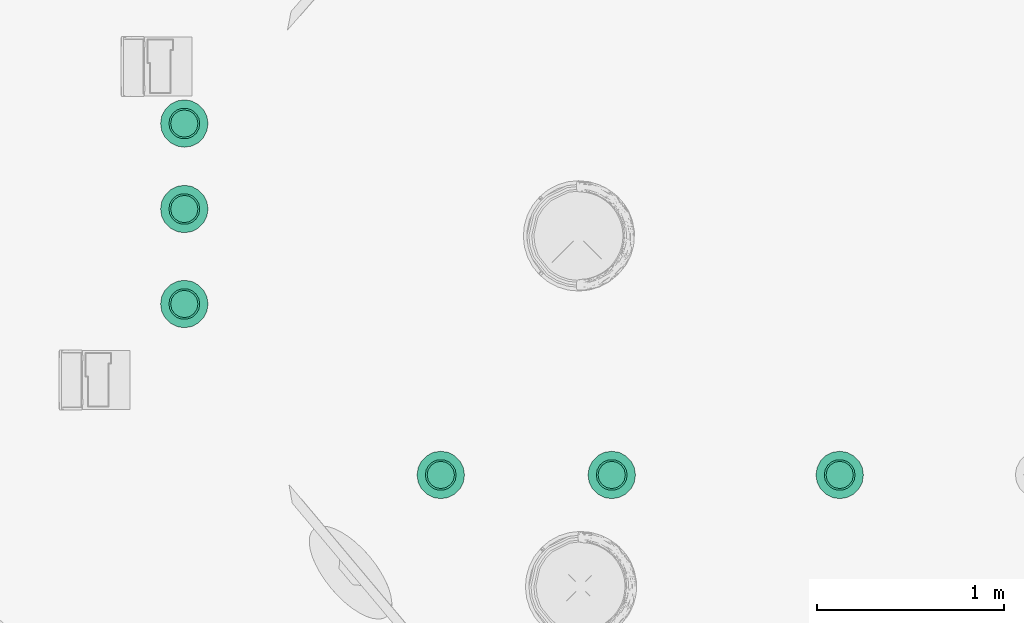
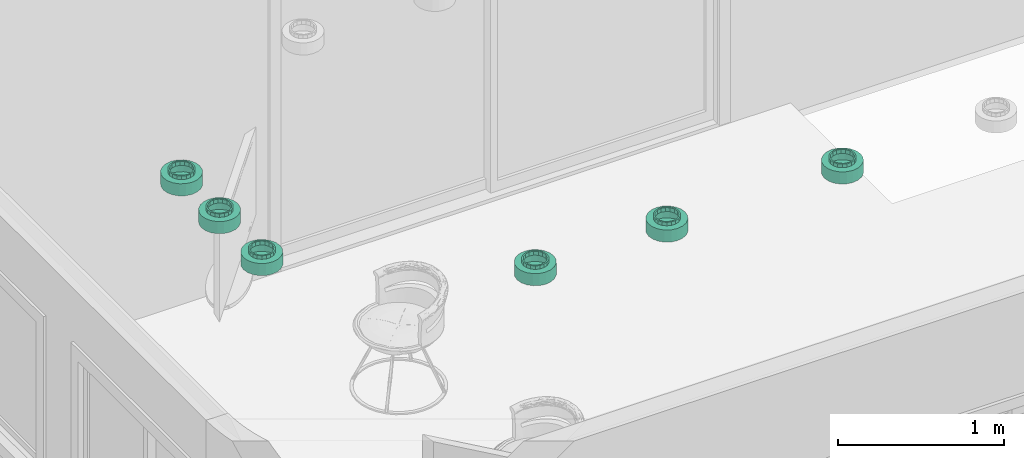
# One storey, part 3 of 8: 6 flow terminals.
"""IFC2X3 building model written with IfcOpenShell, lengths in feet."""

from ifc_helpers import new_model, entity, si_unit, converted_unit, derived_unit, direction, frame, origin, place, context, subcontext, project, spatial, faceted_brep, source, transform, mapped, material, material_list, type_object, type_shapes, element, save


model = new_model("IFC2X3")

# Units and contexts
model_context = context("Model", 3, precision=0.0001, world=origin(), true_north=direction((6.12303176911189e-17, 1.0)))
body_context = subcontext(model_context, "Body", "Model", "MODEL_VIEW")
ifc_project = project(units=[converted_unit("LENGTHUNIT", "FOOT", entity("IfcRatioMeasure", 0.3048), si_unit("LENGTHUNIT", "METRE"), dimensions=[1, 0, 0, 0, 0, 0, 0]), converted_unit("AREAUNIT", "SQUARE FOOT", entity("IfcRatioMeasure", 0.09290304), si_unit("AREAUNIT", "SQUARE_METRE"), dimensions=[2, 0, 0, 0, 0, 0, 0]), converted_unit("VOLUMEUNIT", "CUBIC FOOT", entity("IfcRatioMeasure", 0.028316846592), si_unit("VOLUMEUNIT", "CUBIC_METRE"), dimensions=[3, 0, 0, 0, 0, 0, 0]), converted_unit("PLANEANGLEUNIT", "DEGREE", entity("IfcRatioMeasure", 0.0174532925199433), si_unit("PLANEANGLEUNIT", "RADIAN"), dimensions=[0, 0, 0, 0, 0, 0, 0]), si_unit("MASSUNIT", "GRAM", prefix="KILO"), derived_unit("MASSDENSITYUNIT", [(si_unit("MASSUNIT", "GRAM", prefix="KILO"), 1), (si_unit("LENGTHUNIT", "METRE"), -3)]), si_unit("TIMEUNIT", "SECOND"), si_unit("FREQUENCYUNIT", "HERTZ"), si_unit("THERMODYNAMICTEMPERATUREUNIT", "DEGREE_CELSIUS"), derived_unit("THERMALTRANSMITTANCEUNIT", [(si_unit("MASSUNIT", "GRAM", prefix="KILO"), 1), (si_unit("THERMODYNAMICTEMPERATUREUNIT", "KELVIN"), -1), (si_unit("TIMEUNIT", "SECOND"), -3)]), derived_unit("VOLUMETRICFLOWRATEUNIT", [(si_unit("LENGTHUNIT", "METRE"), 3), (si_unit("TIMEUNIT", "SECOND"), -1)]), si_unit("ELECTRICCURRENTUNIT", "AMPERE"), si_unit("ELECTRICVOLTAGEUNIT", "VOLT"), si_unit("POWERUNIT", "WATT"), si_unit("FORCEUNIT", "NEWTON"), si_unit("ILLUMINANCEUNIT", "LUX"), si_unit("LUMINOUSFLUXUNIT", "LUMEN"), si_unit("LUMINOUSINTENSITYUNIT", "CANDELA"), derived_unit("USERDEFINED", [(si_unit("MASSUNIT", "GRAM", prefix="KILO"), -1), (si_unit("LENGTHUNIT", "METRE"), -2), (si_unit("TIMEUNIT", "SECOND"), 3), (si_unit("LUMINOUSFLUXUNIT", "LUMEN"), 1)]), derived_unit("LINEARVELOCITYUNIT", [(si_unit("LENGTHUNIT", "METRE"), 1), (si_unit("TIMEUNIT", "SECOND"), -1)]), si_unit("PRESSUREUNIT", "PASCAL"), derived_unit("USERDEFINED", [(si_unit("LENGTHUNIT", "METRE"), -2), (si_unit("MASSUNIT", "GRAM", prefix="KILO"), 1), (si_unit("TIMEUNIT", "SECOND"), -2)])], contexts=[model_context])

# Site, building, storey
site_placement = place(None, origin())
site = spatial("IfcSite", under=ifc_project, at=site_placement, Name="表面", CompositionType="ELEMENT")
building_placement = place(site_placement, origin())
building = spatial("IfcBuilding", under=site, at=building_placement, CompositionType="ELEMENT")
storey_placement = place(building_placement, frame((0.0, 0.0, 20.0)))
storey = spatial("IfcBuildingStorey", under=building, at=storey_placement, Name="Sun Deck", CompositionType="ELEMENT", Elevation=19.9999999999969)

# Flow terminals
ifc_material_1 = material(Name="Metal - Paint Finish - Dark Gray, Matte")
ifc_material_2 = material(Name="Glass - White, High Luminance")
ifc_material_list_1 = material_list([ifc_material_1, ifc_material_2])
ifc_material_list_2 = material_list([ifc_material_1, ifc_material_2])
light_fixture_type = type_object("IfcLightFixtureType", Name="60W - 120V", PredefinedType="NOTDEFINED", material=ifc_material_list_2)
shared_shape = source(origin(), body_context, "Body", "Brep", [
    faceted_brep([(0.557291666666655, 0.187326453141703, 0.374999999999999), (0.598651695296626, 0.245098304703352, 0.374999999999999), (0.558098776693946, 0.218001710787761, 0.374999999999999), (0.629345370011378, 0.247786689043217, 0.374999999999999), (0.517545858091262, 0.190905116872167, 0.374999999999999), (0.468904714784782, 0.155156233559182, 0.374999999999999), (0.625748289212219, 0.285651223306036, 0.374999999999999), (0.65284488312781, 0.326204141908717, 0.374999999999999), (0.676375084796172, 0.329244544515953, 0.374999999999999), (0.6623599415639, 0.374039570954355, 0.374999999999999), (0.671874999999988, 0.42187499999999, 0.374999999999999), (0.692708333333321, 0.421874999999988, 0.374999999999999), (0.676375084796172, 0.514505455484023, 0.374999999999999), (0.662359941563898, 0.469710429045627, 0.374999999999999), (0.652844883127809, 0.517545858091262, 0.374999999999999), (0.629345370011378, 0.595963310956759, 0.374999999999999), (0.625748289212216, 0.558098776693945, 0.374999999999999), (0.598651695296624, 0.598651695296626, 0.374999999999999), (0.557291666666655, 0.656423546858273, 0.374999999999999), (0.55809877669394, 0.625748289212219, 0.374999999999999), (0.517545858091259, 0.65284488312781, 0.374999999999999), (0.468904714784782, 0.688593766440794, 0.374999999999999), (0.469710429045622, 0.662359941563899, 0.374999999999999), (0.421874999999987, 0.671874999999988, 0.374999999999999), (0.374845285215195, 0.688593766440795, 0.374999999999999), (0.374039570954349, 0.662359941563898, 0.374999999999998), (0.326204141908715, 0.652844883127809, 0.374999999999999), (0.286458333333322, 0.656423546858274, 0.374999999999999), (0.285651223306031, 0.625748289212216, 0.374999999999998), (0.245098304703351, 0.598651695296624, 0.374999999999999), (0.214404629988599, 0.59596331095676, 0.374999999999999), (0.218001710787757, 0.558098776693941, 0.374999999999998), (0.190905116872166, 0.51754585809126, 0.374999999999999), (0.167374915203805, 0.514505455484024, 0.374999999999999), (0.181390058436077, 0.469710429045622, 0.374999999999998), (0.171874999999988, 0.421874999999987, 0.374999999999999), (0.151041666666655, 0.421874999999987, 0.374999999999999), (0.167374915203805, 0.329244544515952, 0.374999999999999), (0.181390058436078, 0.374039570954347, 0.374999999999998), (0.190905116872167, 0.326204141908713, 0.374999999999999), (0.214404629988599, 0.247786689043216, 0.374999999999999), (0.218001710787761, 0.28565122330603, 0.374999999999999), (0.245098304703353, 0.245098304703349, 0.374999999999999), (0.286458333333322, 0.187326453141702, 0.374999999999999), (0.285651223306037, 0.218001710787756, 0.374999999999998), (0.326204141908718, 0.190905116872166, 0.374999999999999), (0.374845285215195, 0.155156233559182, 0.374999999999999), (0.42187499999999, 0.171874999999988, 0.374999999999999), (0.374039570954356, 0.181390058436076, 0.374999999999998), (0.469710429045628, 0.181390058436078, 0.374999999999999), (0.557291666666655, 0.656423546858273, 0.291666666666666), (0.598651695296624, 0.598651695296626, 0.291666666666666), (0.55809877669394, 0.625748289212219, 0.291666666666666), (0.629345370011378, 0.595963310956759, 0.291666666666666), (0.517545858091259, 0.65284488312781, 0.291666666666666), (0.468904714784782, 0.688593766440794, 0.291666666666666), (0.625748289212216, 0.558098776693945, 0.291666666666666), (0.652844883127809, 0.517545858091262, 0.291666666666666), (0.676375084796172, 0.514505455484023, 0.291666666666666), (0.662359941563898, 0.469710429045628, 0.291666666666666), (0.671874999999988, 0.42187499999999, 0.291666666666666), (0.692708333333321, 0.421874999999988, 0.291666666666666), (0.676375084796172, 0.329244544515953, 0.291666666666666), (0.659760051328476, 0.36096904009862, 0.291666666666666), (0.65284488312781, 0.326204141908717, 0.291666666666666), (0.629345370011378, 0.247786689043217, 0.291666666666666), (0.625748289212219, 0.285651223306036, 0.291666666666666), (0.598651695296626, 0.245098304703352, 0.291666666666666), (0.557291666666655, 0.187326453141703, 0.291666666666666), (0.558098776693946, 0.218001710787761, 0.291666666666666), (0.517545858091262, 0.190905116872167, 0.291666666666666), (0.468904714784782, 0.155156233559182, 0.291666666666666), (0.469710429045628, 0.181390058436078, 0.291666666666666), (0.42187499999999, 0.171874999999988, 0.291666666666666), (0.374845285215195, 0.155156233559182, 0.291666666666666), (0.374039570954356, 0.181390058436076, 0.291666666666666), (0.326204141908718, 0.190905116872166, 0.291666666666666), (0.286458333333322, 0.187326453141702, 0.291666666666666), (0.285651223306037, 0.218001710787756, 0.291666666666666), (0.245098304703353, 0.245098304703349, 0.291666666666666), (0.214404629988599, 0.247786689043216, 0.291666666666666), (0.218001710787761, 0.28565122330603, 0.291666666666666), (0.190905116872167, 0.326204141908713, 0.291666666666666), (0.167374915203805, 0.329244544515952, 0.291666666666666), (0.181390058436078, 0.374039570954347, 0.291666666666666), (0.171874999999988, 0.421874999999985, 0.291666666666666), (0.151041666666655, 0.421874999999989, 0.291666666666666), (0.167374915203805, 0.514505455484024, 0.291666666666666), (0.183989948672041, 0.482780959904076, 0.291666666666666), (0.190905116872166, 0.51754585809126, 0.291666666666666), (0.214404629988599, 0.59596331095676, 0.291666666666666), (0.218001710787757, 0.558098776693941, 0.291666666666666), (0.245098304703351, 0.598651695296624, 0.291666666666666), (0.286458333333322, 0.656423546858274, 0.291666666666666), (0.285651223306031, 0.625748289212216, 0.291666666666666), (0.326204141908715, 0.652844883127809, 0.291666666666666), (0.374845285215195, 0.688593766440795, 0.291666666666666), (0.421874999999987, 0.671874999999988, 0.291666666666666), (0.374039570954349, 0.662359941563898, 0.291666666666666), (0.469710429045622, 0.662359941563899, 0.291666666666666)], [[[0, 1, 2]], [[1, 0, 3]], [[0, 2, 4]], [[4, 5, 0]], [[3, 6, 1]], [[3, 7, 6]], [[7, 3, 8]], [[8, 9, 7]], [[8, 10, 9]], [[10, 8, 11]], [[10, 11, 12]], [[12, 13, 10]], [[12, 14, 13]], [[15, 14, 12]], [[15, 16, 14]], [[15, 17, 16]], [[18, 17, 15]], [[18, 19, 17]], [[18, 20, 19]], [[21, 20, 18]], [[21, 22, 20]], [[21, 23, 22]], [[24, 23, 21]], [[24, 25, 23]], [[24, 26, 25]], [[27, 26, 24]], [[27, 28, 26]], [[27, 29, 28]], [[29, 27, 30]], [[30, 31, 29]], [[30, 32, 31]], [[32, 30, 33]], [[33, 34, 32]], [[33, 35, 34]], [[36, 35, 33]], [[37, 35, 36]], [[37, 38, 35]], [[37, 39, 38]], [[39, 37, 40]], [[40, 41, 39]], [[40, 42, 41]], [[42, 40, 43]], [[43, 44, 42]], [[43, 45, 44]], [[45, 43, 46]], [[47, 46, 5]], [[46, 47, 48]], [[46, 48, 45]], [[5, 4, 49]], [[5, 49, 47]], [[50, 51, 52]], [[51, 50, 53]], [[50, 52, 54]], [[54, 55, 50]], [[53, 56, 51]], [[53, 57, 56]], [[57, 53, 58]], [[58, 59, 57]], [[58, 60, 59]], [[60, 58, 61]], [[60, 61, 62]], [[62, 63, 60]], [[62, 64, 63]], [[65, 64, 62]], [[65, 66, 64]], [[65, 67, 66]], [[68, 67, 65]], [[68, 69, 67]], [[68, 70, 69]], [[71, 70, 68]], [[71, 72, 70]], [[71, 73, 72]], [[74, 73, 71]], [[74, 75, 73]], [[74, 76, 75]], [[77, 76, 74]], [[77, 78, 76]], [[77, 79, 78]], [[79, 77, 80]], [[80, 81, 79]], [[80, 82, 81]], [[82, 80, 83]], [[83, 84, 82]], [[83, 85, 84]], [[86, 85, 83]], [[87, 85, 86]], [[87, 88, 85]], [[87, 89, 88]], [[89, 87, 90]], [[90, 91, 89]], [[90, 92, 91]], [[92, 90, 93]], [[93, 94, 92]], [[93, 95, 94]], [[95, 93, 96]], [[97, 96, 55]], [[96, 97, 98]], [[96, 98, 95]], [[55, 54, 99]], [[55, 99, 97]], [[37, 36, 86, 83]], [[43, 40, 80, 77]], [[83, 80, 40, 37]], [[77, 74, 46, 43]], [[74, 71, 5, 46]], [[0, 5, 71, 68]], [[8, 3, 65, 62]], [[68, 65, 3, 0]], [[62, 61, 11, 8]], [[12, 11, 61, 58]], [[18, 15, 53, 50]], [[58, 53, 15, 12]], [[50, 55, 21, 18]], [[55, 96, 24, 21]], [[27, 24, 96, 93]], [[87, 33, 30, 90]], [[90, 30, 27, 93]], [[33, 87, 86, 36]], [[34, 35, 85, 88, 89, 32]], [[89, 91, 92, 29, 31, 32]], [[59, 60, 10, 13, 14, 57]], [[92, 94, 95, 26, 28, 29]], [[23, 25, 26, 95, 98, 97]], [[97, 99, 54, 20, 22, 23]], [[16, 17, 51, 56, 57, 14]], [[54, 52, 51, 17, 19, 20]], [[9, 10, 60, 63, 64, 7]], [[64, 66, 67, 1, 6, 7]], [[84, 85, 35, 38, 39, 82]], [[67, 69, 70, 4, 2, 1]], [[47, 49, 4, 70, 72, 73]], [[73, 75, 76, 45, 48, 47]], [[41, 42, 79, 81, 82, 39]], [[76, 78, 79, 42, 44, 45]]]),
    faceted_brep([(0.671874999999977, 0.421874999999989, 0.291666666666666), (0.838541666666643, 0.421874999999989, 0.291666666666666), (0.81814854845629, 0.550632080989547, 0.291666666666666), (0.818148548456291, 0.293117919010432, 0.291666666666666), (0.659760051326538, 0.360969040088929, 0.291666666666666), (0.662359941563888, 0.469710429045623, 0.291666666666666), (0.6528448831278, 0.326204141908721, 0.291666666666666), (0.758965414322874, 0.176964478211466, 0.291666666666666), (0.625748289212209, 0.28565122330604, 0.291666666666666), (0.598651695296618, 0.24509830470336, 0.291666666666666), (0.666785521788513, 0.084784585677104, 0.291666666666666), (0.558098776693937, 0.218001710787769, 0.291666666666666), (0.517545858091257, 0.190905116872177, 0.291666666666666), (0.550632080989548, 0.025601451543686, 0.291666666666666), (0.469710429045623, 0.181390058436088, 0.291666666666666), (0.421874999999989, 0.171874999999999, 0.291666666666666), (0.42187499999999, 0.00520833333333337, 0.291666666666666), (0.293117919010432, 0.0256014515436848, 0.291666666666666), (0.374039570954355, 0.181390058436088, 0.291666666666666), (0.326204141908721, 0.190905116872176, 0.291666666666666), (0.176964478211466, 0.0847845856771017, 0.291666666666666), (0.285651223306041, 0.218001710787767, 0.291666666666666), (0.24509830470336, 0.245098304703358, 0.291666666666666), (0.0847845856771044, 0.176964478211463, 0.291666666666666), (0.218001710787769, 0.285651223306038, 0.291666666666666), (0.190905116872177, 0.326204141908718, 0.291666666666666), (0.0256014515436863, 0.293117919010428, 0.291666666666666), (0.181390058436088, 0.374039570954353, 0.291666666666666), (0.171874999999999, 0.421874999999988, 0.291666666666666), (0.00520833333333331, 0.421874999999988, 0.291666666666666), (0.0256014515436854, 0.550632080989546, 0.291666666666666), (0.183989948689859, 0.482780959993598, 0.291666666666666), (0.190905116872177, 0.517545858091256, 0.291666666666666), (0.0847845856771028, 0.666785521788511, 0.291666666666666), (0.218001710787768, 0.558098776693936, 0.291666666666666), (0.245098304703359, 0.598651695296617, 0.291666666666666), (0.176964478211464, 0.758965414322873, 0.291666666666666), (0.285651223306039, 0.625748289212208, 0.291666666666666), (0.32620414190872, 0.652844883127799, 0.291666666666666), (0.29311791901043, 0.81814854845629, 0.291666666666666), (0.374039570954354, 0.662359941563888, 0.291666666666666), (0.421874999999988, 0.671874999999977, 0.291666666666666), (0.421874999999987, 0.838541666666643, 0.291666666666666), (0.550632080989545, 0.818148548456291, 0.291666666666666), (0.469710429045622, 0.662359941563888, 0.291666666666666), (0.517545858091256, 0.6528448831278, 0.291666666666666), (0.666785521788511, 0.758965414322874, 0.291666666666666), (0.558098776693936, 0.625748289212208, 0.291666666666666), (0.598651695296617, 0.598651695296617, 0.291666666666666), (0.758965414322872, 0.666785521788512, 0.291666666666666), (0.625748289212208, 0.558098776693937, 0.291666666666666), (0.652844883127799, 0.517545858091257, 0.291666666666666), (0.0256014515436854, 0.550632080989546, 0.0), (0.00520833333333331, 0.421874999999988, 0.0), (0.0847845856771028, 0.666785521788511, 0.0), (0.176964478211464, 0.758965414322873, 0.0), (0.29311791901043, 0.818148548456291, 0.0), (0.421874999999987, 0.838541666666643, 0.0), (0.550632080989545, 0.818148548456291, 0.0), (0.666785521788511, 0.758965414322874, 0.0), (0.758965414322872, 0.666785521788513, 0.0), (0.81814854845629, 0.550632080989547, 0.0), (0.838541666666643, 0.42187499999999, 0.0), (0.818148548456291, 0.293117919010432, 0.0), (0.666785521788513, 0.0847845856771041, 0.0), (0.550632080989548, 0.025601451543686, 0.0), (0.42187499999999, 0.00520833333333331, 0.0), (0.758965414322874, 0.176964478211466, 0.0), (0.293117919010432, 0.0256014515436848, 0.0), (0.176964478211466, 0.0847845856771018, 0.0), (0.0847845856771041, 0.176964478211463, 0.0), (0.025601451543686, 0.293117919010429, 0.0), (0.421874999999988, 0.421874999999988, 0.0), (0.808241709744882, 0.547413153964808, 0.0104166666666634), (0.421874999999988, 0.421874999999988, 0.0104166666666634), (0.828124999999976, 0.421874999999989, 0.0104166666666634), (0.7505381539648, 0.660662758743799, 0.0104166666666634), (0.660662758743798, 0.750538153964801, 0.0104166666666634), (0.547413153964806, 0.808241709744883, 0.0104166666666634), (0.421874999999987, 0.828124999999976, 0.0104166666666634), (0.296336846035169, 0.808241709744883, 0.0104166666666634), (0.183087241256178, 0.750538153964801, 0.0104166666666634), (0.0932118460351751, 0.660662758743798, 0.0104166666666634), (0.0355082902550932, 0.547413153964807, 0.0104166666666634), (0.0156249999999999, 0.421874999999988, 0.0104166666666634), (0.0355082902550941, 0.296336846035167, 0.0104166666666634), (0.0932118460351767, 0.183087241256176, 0.0104166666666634), (0.18308724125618, 0.093211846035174, 0.0104166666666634), (0.296336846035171, 0.0355082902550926, 0.0104166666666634), (0.42187499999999, 0.0156249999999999, 0.0104166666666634), (0.547413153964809, 0.0355082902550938, 0.0104166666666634), (0.6606627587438, 0.0932118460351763, 0.0104166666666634), (0.750538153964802, 0.183087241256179, 0.0104166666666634), (0.808241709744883, 0.296336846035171, 0.0104166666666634), (0.0355082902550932, 0.547413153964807, 0.281249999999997), (0.0156249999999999, 0.421874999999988, 0.281249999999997), (0.0932118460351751, 0.660662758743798, 0.281249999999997), (0.183087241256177, 0.750538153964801, 0.281249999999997), (0.296336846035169, 0.808241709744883, 0.281249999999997), (0.421874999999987, 0.828124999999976, 0.281249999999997), (0.660662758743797, 0.750538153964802, 0.281249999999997), (0.547413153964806, 0.808241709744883, 0.281249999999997), (0.808241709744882, 0.547413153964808, 0.281249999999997), (0.7505381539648, 0.660662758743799, 0.281249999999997), (0.828124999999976, 0.42187499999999, 0.281249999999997), (0.808241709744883, 0.296336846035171, 0.281249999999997), (0.547413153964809, 0.0355082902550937, 0.281249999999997), (0.6606627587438, 0.0932118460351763, 0.281249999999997), (0.42187499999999, 0.0156249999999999, 0.281249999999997), (0.750538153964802, 0.183087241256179, 0.281249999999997), (0.183087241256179, 0.0932118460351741, 0.281249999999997), (0.296336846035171, 0.0355082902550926, 0.281249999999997), (0.0355082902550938, 0.296336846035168, 0.281249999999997), (0.0932118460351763, 0.183087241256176, 0.281249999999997), (0.66145833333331, 0.421874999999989, 0.281249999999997), (0.650878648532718, 0.475062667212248, 0.281249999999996), (0.643221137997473, 0.513559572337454, 0.281249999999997), (0.650878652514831, 0.368687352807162, 0.281249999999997), (0.643221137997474, 0.330190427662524, 0.281249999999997), (0.617253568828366, 0.291327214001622, 0.281249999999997), (0.591285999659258, 0.25246400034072, 0.281249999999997), (0.552422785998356, 0.226496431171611, 0.281249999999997), (0.513559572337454, 0.200528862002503, 0.281249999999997), (0.467717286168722, 0.191410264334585, 0.281249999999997), (0.421874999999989, 0.182291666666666, 0.281249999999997), (0.376032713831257, 0.191410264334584, 0.281249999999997), (0.330190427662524, 0.200528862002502, 0.281249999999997), (0.291327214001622, 0.22649643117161, 0.281249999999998), (0.25246400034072, 0.252464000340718, 0.281249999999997), (0.226496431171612, 0.29132721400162, 0.281249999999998), (0.200528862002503, 0.330190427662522, 0.281249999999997), (0.191410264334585, 0.376032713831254, 0.281249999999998), (0.182291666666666, 0.421874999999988, 0.281249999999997), (0.192871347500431, 0.47506264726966, 0.281249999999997), (0.200528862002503, 0.513559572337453, 0.281249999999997), (0.226496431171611, 0.552422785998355, 0.281249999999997), (0.252464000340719, 0.591285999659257, 0.281249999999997), (0.291327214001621, 0.617253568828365, 0.281249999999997), (0.330190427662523, 0.643221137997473, 0.281249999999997), (0.376032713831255, 0.652339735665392, 0.281249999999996), (0.421874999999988, 0.66145833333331, 0.281249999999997), (0.46771728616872, 0.652339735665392, 0.281249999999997), (0.513559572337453, 0.643221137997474, 0.281249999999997), (0.591285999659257, 0.591285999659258, 0.281249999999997), (0.552422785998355, 0.617253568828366, 0.281249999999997), (0.617253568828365, 0.552422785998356, 0.281249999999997), (0.191410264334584, 0.467717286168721, 0.375), (0.182291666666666, 0.421874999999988, 0.375), (0.200528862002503, 0.513559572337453, 0.375), (0.252464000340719, 0.591285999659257, 0.375), (0.226496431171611, 0.552422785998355, 0.375), (0.330190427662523, 0.643221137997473, 0.375), (0.291327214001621, 0.617253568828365, 0.375), (0.421874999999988, 0.66145833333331, 0.375), (0.376032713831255, 0.652339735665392, 0.375), (0.552422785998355, 0.617253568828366, 0.375), (0.513559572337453, 0.643221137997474, 0.375), (0.591285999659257, 0.591285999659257, 0.375), (0.643221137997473, 0.513559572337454, 0.375), (0.617253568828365, 0.552422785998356, 0.375), (0.46771728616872, 0.652339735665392, 0.375), (0.652339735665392, 0.467717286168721, 0.375), (0.66145833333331, 0.421874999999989, 0.375), (0.652339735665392, 0.376032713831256, 0.375), (0.643221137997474, 0.330190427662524, 0.375), (0.591285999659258, 0.25246400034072, 0.375), (0.617253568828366, 0.291327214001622, 0.375), (0.513559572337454, 0.200528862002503, 0.375), (0.552422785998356, 0.226496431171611, 0.375), (0.421874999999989, 0.182291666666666, 0.375), (0.467717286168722, 0.191410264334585, 0.375), (0.200528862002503, 0.330190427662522, 0.375), (0.192871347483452, 0.368687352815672, 0.375), (0.25246400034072, 0.252464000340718, 0.375), (0.291327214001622, 0.22649643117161, 0.375), (0.330190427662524, 0.200528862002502, 0.375), (0.226496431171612, 0.29132721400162, 0.375), (0.376032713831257, 0.191410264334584, 0.375), (0.671874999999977, 0.421874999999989, 0.375), (0.659760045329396, 0.482780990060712, 0.375), (0.652844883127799, 0.517545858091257, 0.375), (0.662359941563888, 0.374039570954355, 0.375), (0.6528448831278, 0.326204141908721, 0.375), (0.625748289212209, 0.28565122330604, 0.375), (0.598651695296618, 0.24509830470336, 0.375), (0.558098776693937, 0.218001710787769, 0.375), (0.517545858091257, 0.190905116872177, 0.375), (0.469710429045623, 0.181390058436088, 0.375), (0.421874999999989, 0.171874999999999, 0.375), (0.374039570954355, 0.181390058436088, 0.375), (0.326204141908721, 0.190905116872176, 0.375), (0.285651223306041, 0.218001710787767, 0.375), (0.24509830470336, 0.245098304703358, 0.375), (0.218001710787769, 0.285651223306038, 0.375), (0.190905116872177, 0.326204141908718, 0.375), (0.183989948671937, 0.360969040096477, 0.375), (0.171874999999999, 0.421874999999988, 0.375), (0.181390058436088, 0.469710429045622, 0.375), (0.190905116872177, 0.517545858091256, 0.375), (0.218001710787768, 0.558098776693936, 0.375), (0.245098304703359, 0.598651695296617, 0.375), (0.285651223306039, 0.625748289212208, 0.375), (0.32620414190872, 0.652844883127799, 0.375), (0.374039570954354, 0.662359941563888, 0.375), (0.421874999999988, 0.671874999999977, 0.375), (0.469710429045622, 0.662359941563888, 0.375), (0.517545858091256, 0.6528448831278, 0.375), (0.558098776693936, 0.625748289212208, 0.375), (0.598651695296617, 0.598651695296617, 0.375), (0.625748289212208, 0.558098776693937, 0.375)], [[[0, 1, 2]], [[0, 3, 1]], [[3, 0, 4]], [[2, 5, 0]], [[3, 4, 6]], [[7, 3, 6]], [[7, 6, 8]], [[7, 8, 9]], [[10, 7, 9]], [[10, 9, 11]], [[10, 11, 12]], [[10, 12, 13]], [[13, 12, 14]], [[13, 14, 15]], [[16, 13, 15]], [[16, 15, 17]], [[17, 15, 18]], [[17, 18, 19]], [[17, 19, 20]], [[20, 19, 21]], [[20, 21, 22]], [[23, 20, 22]], [[23, 22, 24]], [[23, 24, 25]], [[25, 26, 23]], [[26, 25, 27]], [[26, 27, 28]], [[29, 26, 28]], [[30, 29, 28]], [[30, 28, 31]], [[30, 31, 32]], [[30, 32, 33]], [[33, 32, 34]], [[33, 34, 35]], [[36, 33, 35]], [[36, 35, 37]], [[36, 37, 38]], [[39, 36, 38]], [[39, 38, 40]], [[39, 40, 41]], [[42, 39, 41]], [[42, 41, 43]], [[43, 41, 44]], [[43, 44, 45]], [[46, 43, 45]], [[46, 45, 47]], [[46, 47, 48]], [[46, 48, 49]], [[49, 48, 50]], [[49, 50, 51]], [[49, 51, 2]], [[2, 51, 5]], [[52, 53, 29, 30]], [[30, 33, 54, 52]], [[36, 55, 54, 33]], [[55, 36, 39, 56]], [[56, 39, 42, 57]], [[58, 43, 46, 59]], [[60, 49, 2, 61]], [[46, 49, 60, 59]], [[61, 2, 1, 62]], [[43, 58, 57, 42]], [[1, 3, 63, 62]], [[64, 10, 13, 65]], [[16, 66, 65, 13]], [[63, 3, 7, 67]], [[10, 64, 67, 7]], [[68, 17, 20, 69]], [[70, 23, 26, 71]], [[20, 23, 70, 69]], [[71, 26, 29, 53]], [[17, 68, 66, 16]], [[62, 72, 61]], [[62, 63, 72]], [[72, 63, 67]], [[72, 67, 64]], [[72, 64, 65]], [[65, 66, 72]], [[68, 72, 66]], [[72, 68, 69]], [[72, 69, 70]], [[71, 72, 70]], [[72, 71, 53]], [[72, 53, 52]], [[72, 52, 54]], [[54, 55, 72]], [[72, 55, 56]], [[56, 57, 72]], [[72, 57, 58]], [[59, 72, 58]], [[72, 59, 60]], [[61, 72, 60]], [[73, 74, 75]], [[76, 74, 73]], [[76, 77, 74]], [[78, 74, 77]], [[78, 79, 74]], [[74, 79, 80]], [[80, 81, 74]], [[74, 81, 82]], [[82, 83, 74]], [[83, 84, 74]], [[84, 85, 74]], [[86, 74, 85]], [[86, 87, 74]], [[87, 88, 74]], [[89, 74, 88]], [[74, 89, 90]], [[90, 91, 74]], [[91, 92, 74]], [[92, 93, 74]], [[74, 93, 75]], [[94, 95, 84, 83]], [[82, 96, 94, 83]], [[96, 82, 81, 97]], [[81, 80, 98, 97]], [[98, 80, 79, 99]], [[100, 101, 78, 77]], [[102, 103, 76, 73]], [[77, 76, 103, 100]], [[104, 102, 73, 75]], [[79, 78, 101, 99]], [[105, 104, 75, 93]], [[106, 107, 91, 90]], [[108, 106, 90, 89]], [[93, 92, 109, 105]], [[109, 92, 91, 107]], [[110, 111, 88, 87]], [[112, 113, 86, 85]], [[87, 86, 113, 110]], [[95, 112, 85, 84]], [[89, 88, 111, 108]], [[102, 104, 114]], [[102, 114, 115]], [[102, 115, 116]], [[102, 116, 103]], [[104, 105, 114]], [[105, 117, 114]], [[105, 118, 117]], [[118, 105, 109]], [[109, 119, 118]], [[109, 120, 119]], [[120, 109, 107]], [[107, 121, 120]], [[107, 122, 121]], [[106, 122, 107]], [[106, 123, 122]], [[106, 124, 123]], [[124, 106, 108]], [[111, 124, 108]], [[111, 125, 124]], [[111, 126, 125]], [[110, 126, 111]], [[110, 127, 126]], [[110, 128, 127]], [[128, 110, 113]], [[113, 129, 128]], [[113, 130, 129]], [[113, 112, 130]], [[112, 131, 130]], [[112, 132, 131]], [[132, 112, 95]], [[132, 95, 94]], [[94, 133, 132]], [[94, 134, 133]], [[96, 134, 94]], [[96, 135, 134]], [[96, 136, 135]], [[136, 96, 97]], [[97, 137, 136]], [[97, 138, 137]], [[138, 97, 98]], [[98, 139, 138]], [[98, 140, 139]], [[140, 98, 99]], [[101, 140, 99]], [[101, 141, 140]], [[101, 142, 141]], [[142, 101, 100]], [[103, 143, 100]], [[100, 143, 144]], [[100, 144, 142]], [[103, 116, 145]], [[103, 145, 143]], [[146, 147, 132, 133, 134, 148]], [[136, 149, 150, 148, 134, 135]], [[136, 137, 138, 151, 152, 149]], [[151, 138, 139, 140, 153, 154]], [[155, 156, 142, 144, 143, 157]], [[116, 158, 159, 157, 143, 145]], [[153, 140, 141, 142, 156, 160]], [[161, 158, 116, 115, 114, 162]], [[163, 162, 114, 117, 118, 164]], [[120, 165, 166, 164, 118, 119]], [[120, 121, 122, 167, 168, 165]], [[123, 124, 169, 170, 167, 122]], [[171, 130, 131, 132, 147, 172]], [[128, 173, 174, 175, 126, 127]], [[128, 129, 130, 171, 176, 173]], [[175, 177, 169, 124, 125, 126]], [[162, 178, 179]], [[162, 179, 180]], [[180, 161, 162]], [[162, 181, 178]], [[162, 182, 181]], [[182, 162, 163]], [[182, 163, 164]], [[164, 183, 182]], [[164, 184, 183]], [[184, 164, 166]], [[184, 166, 165]], [[165, 185, 184]], [[165, 186, 185]], [[186, 165, 168]], [[186, 168, 167]], [[167, 187, 186]], [[167, 188, 187]], [[188, 167, 170]], [[188, 170, 169]], [[188, 169, 177]], [[188, 177, 175]], [[175, 189, 188]], [[175, 190, 189]], [[190, 175, 174]], [[190, 174, 173]], [[173, 191, 190]], [[173, 192, 191]], [[192, 173, 176]], [[192, 176, 171]], [[171, 193, 192]], [[171, 194, 193]], [[194, 171, 172]], [[194, 172, 147]], [[147, 195, 194]], [[147, 196, 195]], [[147, 197, 196]], [[147, 198, 197]], [[198, 147, 146]], [[198, 146, 148]], [[148, 199, 198]], [[148, 200, 199]], [[200, 148, 150]], [[200, 150, 149]], [[149, 201, 200]], [[149, 202, 201]], [[202, 149, 152]], [[202, 152, 151]], [[151, 203, 202]], [[151, 204, 203]], [[204, 151, 154]], [[204, 154, 153]], [[204, 153, 160]], [[204, 160, 156]], [[156, 205, 204]], [[156, 206, 205]], [[206, 156, 155]], [[206, 155, 157]], [[157, 207, 206]], [[157, 208, 207]], [[208, 157, 159]], [[208, 159, 158]], [[158, 180, 209]], [[180, 158, 161]], [[158, 209, 208]], [[198, 32, 31, 28, 196, 197]], [[199, 200, 35, 34, 32, 198]], [[200, 201, 202, 38, 37, 35]], [[40, 38, 202, 203, 204, 41]], [[47, 45, 206, 207, 208, 48]], [[178, 0, 5, 51, 180, 179]], [[208, 209, 180, 51, 50, 48]], [[45, 44, 41, 204, 205, 206]], [[182, 6, 4, 0, 178, 181]], [[183, 184, 9, 8, 6, 182]], [[184, 185, 186, 12, 11, 9]], [[187, 188, 15, 14, 12, 186]], [[195, 196, 28, 27, 25, 194]], [[191, 192, 22, 21, 19, 190]], [[192, 193, 194, 25, 24, 22]], [[19, 18, 15, 188, 189, 190]]]),
])
type_shapes(light_fixture_type, [shared_shape])
flow_terminal_1_placement = place(storey_placement, frame((-10.7067880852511, 3.01051869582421, 9.625)))
element("IfcFlowTerminal", 1, at=flow_terminal_1_placement, inside=storey, type_object=light_fixture_type, material=ifc_material_list_1, Name="Ceiling Light - Flat Round:60W - 120V", ObjectType="60W - 120V", context=body_context, shape_type="MappedRepresentation", body=[
    mapped(shared_shape, transform((0.0, 0.0, 0.0), scale=1.0)),
])
ifc_material_list_3 = material_list([ifc_material_1, ifc_material_2])
flow_terminal_2_placement = place(storey_placement, frame((-10.7067880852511, 1.51051869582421, 9.625)))
element("IfcFlowTerminal", 2, at=flow_terminal_2_placement, inside=storey, type_object=light_fixture_type, material=ifc_material_list_3, Name="Ceiling Light - Flat Round:60W - 120V", ObjectType="60W - 120V", context=body_context, shape_type="MappedRepresentation", body=[
    mapped(shared_shape, transform((0.0, 0.0, 0.0), scale=1.0)),
])
ifc_material_list_4 = material_list([ifc_material_1, ifc_material_2])
flow_terminal_3_placement = place(storey_placement, frame((-10.7067880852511, -0.156147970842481, 9.625)))
element("IfcFlowTerminal", 3, at=flow_terminal_3_placement, inside=storey, type_object=light_fixture_type, material=ifc_material_list_4, Name="Ceiling Light - Flat Round:60W - 120V", ObjectType="60W - 120V", context=body_context, shape_type="MappedRepresentation", body=[
    mapped(shared_shape, transform((0.0, 0.0, 0.0), scale=1.0)),
])
ifc_material_list_5 = material_list([ifc_material_1, ifc_material_2])
flow_terminal_4_placement = place(storey_placement, frame((-6.20678808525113, -3.1561479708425, 9.625)))
element("IfcFlowTerminal", 4, at=flow_terminal_4_placement, inside=storey, type_object=light_fixture_type, material=ifc_material_list_5, Name="Ceiling Light - Flat Round:60W - 120V", ObjectType="60W - 120V", context=body_context, shape_type="MappedRepresentation", body=[
    mapped(shared_shape, transform((0.0, 0.0, 0.0), scale=1.0)),
])
ifc_material_list_6 = material_list([ifc_material_1, ifc_material_2])
flow_terminal_5_placement = place(storey_placement, frame((-3.20678808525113, -3.15614797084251, 9.625)))
element("IfcFlowTerminal", 5, at=flow_terminal_5_placement, inside=storey, type_object=light_fixture_type, material=ifc_material_list_6, Name="Ceiling Light - Flat Round:60W - 120V", ObjectType="60W - 120V", context=body_context, shape_type="MappedRepresentation", body=[
    mapped(shared_shape, transform((0.0, 0.0, 0.0), scale=1.0)),
])
ifc_material_list_7 = material_list([ifc_material_1, ifc_material_2])
flow_terminal_6_placement = place(storey_placement, frame((0.793211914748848, -3.15614797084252, 9.625)))
element("IfcFlowTerminal", 6, at=flow_terminal_6_placement, inside=storey, type_object=light_fixture_type, material=ifc_material_list_7, Name="Ceiling Light - Flat Round:60W - 120V", ObjectType="60W - 120V", context=body_context, shape_type="MappedRepresentation", body=[
    mapped(shared_shape, transform((0.0, 0.0, 0.0), scale=1.0)),
])

save(model, "model.ifc")
